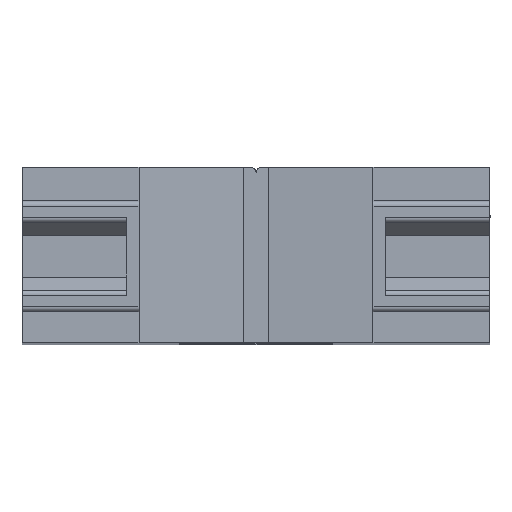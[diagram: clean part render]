
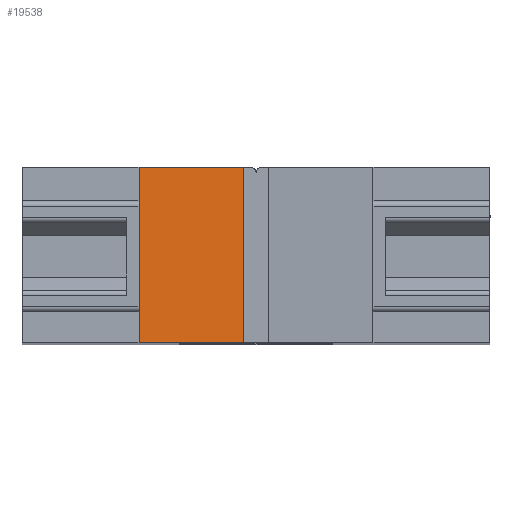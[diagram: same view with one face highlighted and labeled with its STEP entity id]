
A CAD part, top view. The second image highlights one B-rep face of the part: STEP entity #19538.
In plain terms, the highlighted planar face has unit normal (0.073, 0, 0.997).
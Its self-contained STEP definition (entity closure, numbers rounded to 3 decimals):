
#93 = CARTESIAN_POINT ( 'NONE',  ( -9.7, 0., -0.3 ) ) ;
#933 = CARTESIAN_POINT ( 'NONE',  ( -13.8, 6.9, 0. ) ) ;
#1213 = CARTESIAN_POINT ( 'NONE',  ( -13.8, 6.9, 0. ) ) ;
#1473 = ORIENTED_EDGE ( 'NONE', *, *, #35597, .T. ) ;
#1872 = ORIENTED_EDGE ( 'NONE', *, *, #19320, .F. ) ;
#2216 = CARTESIAN_POINT ( 'NONE',  ( -9.7, 6.9, -0.3 ) ) ;
#4057 = VECTOR ( 'NONE', #44103, 1000. ) ;
#4665 = EDGE_LOOP ( 'NONE', ( #1872, #28815, #20505, #44220, #1473, #7392 ) ) ;
#5552 = EDGE_CURVE ( 'NONE', #22468, #40747, #44147, .T. ) ;
#5642 = VECTOR ( 'NONE', #32562, 1000. ) ;
#5850 = DIRECTION ( 'NONE',  ( -0.997, 0., 0.073 ) ) ;
#6495 = CARTESIAN_POINT ( 'NONE',  ( -13.8, 0., 0. ) ) ;
#6926 = EDGE_CURVE ( 'NONE', #23890, #28225, #19783, .T. ) ;
#7392 = ORIENTED_EDGE ( 'NONE', *, *, #6926, .F. ) ;
#7447 = CARTESIAN_POINT ( 'NONE',  ( -9.7, 6.9, -0.3 ) ) ;
#7783 = CARTESIAN_POINT ( 'NONE',  ( -13.8, 5.15, 0. ) ) ;
#10182 = FACE_OUTER_BOUND ( 'NONE', #4665, .T. ) ;
#12986 = LINE ( 'NONE', #7447, #20894 ) ;
#13461 = DIRECTION ( 'NONE',  ( 0., 1., 0. ) ) ;
#16615 = CARTESIAN_POINT ( 'NONE',  ( -13.8, 3.4, 0. ) ) ;
#19007 = EDGE_CURVE ( 'NONE', #24806, #25152, #28246, .T. ) ;
#19320 = EDGE_CURVE ( 'NONE', #22468, #23890, #12986, .T. ) ;
#19538 = ADVANCED_FACE ( 'NONE', ( #10182 ), #37678, .T. ) ;
#19783 = LINE ( 'NONE', #93, #5642 ) ;
#20432 = VECTOR ( 'NONE', #5850, 1000. ) ;
#20505 = ORIENTED_EDGE ( 'NONE', *, *, #33148, .T. ) ;
#20894 = VECTOR ( 'NONE', #25576, 1000. ) ;
#22468 = VERTEX_POINT ( 'NONE', #23954 ) ;
#23890 = VERTEX_POINT ( 'NONE', #34124 ) ;
#23954 = CARTESIAN_POINT ( 'NONE',  ( -9.7, 6.9, -0.3 ) ) ;
#24806 = VERTEX_POINT ( 'NONE', #42374 ) ;
#25152 = VERTEX_POINT ( 'NONE', #7783 ) ;
#25576 = DIRECTION ( 'NONE',  ( 0., -1., 0. ) ) ;
#27349 = CARTESIAN_POINT ( 'NONE',  ( -9.7, 6.9, -0.3 ) ) ;
#28225 = VERTEX_POINT ( 'NONE', #6495 ) ;
#28246 = LINE ( 'NONE', #16615, #36127 ) ;
#28815 = ORIENTED_EDGE ( 'NONE', *, *, #5552, .T. ) ;
#29392 = LINE ( 'NONE', #933, #4057 ) ;
#31871 = LINE ( 'NONE', #1213, #36405 ) ;
#32562 = DIRECTION ( 'NONE',  ( -0.997, 0., 0.073 ) ) ;
#32932 = AXIS2_PLACEMENT_3D ( 'NONE', #2216, #44769, #41474 ) ;
#33148 = EDGE_CURVE ( 'NONE', #40747, #25152, #31871, .T. ) ;
#33497 = DIRECTION ( 'NONE',  ( 0., -1., 0. ) ) ;
#34124 = CARTESIAN_POINT ( 'NONE',  ( -9.7, 0., -0.3 ) ) ;
#35597 = EDGE_CURVE ( 'NONE', #24806, #28225, #29392, .T. ) ;
#36127 = VECTOR ( 'NONE', #13461, 1000. ) ;
#36405 = VECTOR ( 'NONE', #33497, 1000. ) ;
#37678 = PLANE ( 'NONE',  #32932 ) ;
#40747 = VERTEX_POINT ( 'NONE', #41054 ) ;
#41054 = CARTESIAN_POINT ( 'NONE',  ( -13.8, 6.9, 0. ) ) ;
#41474 = DIRECTION ( 'NONE',  ( -0.997, 0., 0.073 ) ) ;
#42374 = CARTESIAN_POINT ( 'NONE',  ( -13.8, 1.65, 0. ) ) ;
#44103 = DIRECTION ( 'NONE',  ( 0., -1., 0. ) ) ;
#44147 = LINE ( 'NONE', #27349, #20432 ) ;
#44220 = ORIENTED_EDGE ( 'NONE', *, *, #19007, .F. ) ;
#44769 = DIRECTION ( 'NONE',  ( 0.073, 0., 0.997 ) ) ;
